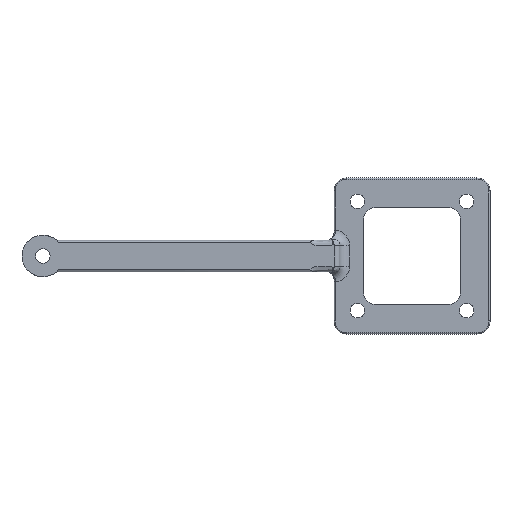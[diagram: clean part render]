
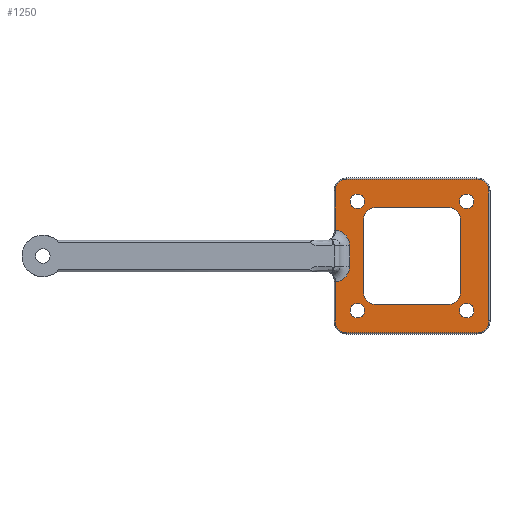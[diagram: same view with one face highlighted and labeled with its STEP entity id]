
A CAD part, top view. The second image highlights one B-rep face of the part: STEP entity #1250.
In plain terms, the highlighted planar face has unit normal (0, 0, 1).
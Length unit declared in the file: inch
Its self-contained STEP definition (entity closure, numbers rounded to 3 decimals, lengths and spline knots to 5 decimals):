
#15=FACE_BOUND($,#315,.T.);
#16=FACE_BOUND($,#316,.T.);
#17=FACE_BOUND($,#317,.T.);
#18=FACE_BOUND($,#318,.T.);
#19=FACE_BOUND($,#319,.T.);
#34=PLANE($,#1350);
#59=LINE($,#1965,#122);
#61=LINE($,#1977,#124);
#63=LINE($,#1989,#126);
#65=LINE($,#2001,#128);
#67=LINE($,#2013,#130);
#69=LINE($,#2260,#132);
#70=LINE($,#2263,#133);
#71=LINE($,#2267,#134);
#72=LINE($,#2271,#135);
#73=LINE($,#2275,#136);
#122=VECTOR($,#1467,0.37533);
#124=VECTOR($,#1481,1.25);
#126=VECTOR($,#1495,1.25);
#128=VECTOR($,#1509,1.25);
#130=VECTOR($,#1523,0.37533);
#132=VECTOR($,#1547,0.2);
#133=VECTOR($,#1548,0.68686);
#134=VECTOR($,#1551,0.68686);
#135=VECTOR($,#1554,0.68686);
#136=VECTOR($,#1557,0.68686);
#238=FACE_OUTER_BOUND($,#314,.T.);
#314=EDGE_LOOP($,(#916,#917,#918,#919,#920,#921,#922,#923,#924,#925,#926,
#927));
#315=EDGE_LOOP($,(#928,#929,#930,#931,#932,#933,#934,#935));
#316=EDGE_LOOP($,(#936));
#317=EDGE_LOOP($,(#937));
#318=EDGE_LOOP($,(#938));
#319=EDGE_LOOP($,(#939));
#439=CIRCLE($,#1319,0.115);
#443=CIRCLE($,#1325,0.115);
#447=CIRCLE($,#1331,0.115);
#451=CIRCLE($,#1337,0.115);
#459=CIRCLE($,#1347,0.15);
#462=CIRCLE($,#1351,0.15);
#463=CIRCLE($,#1352,0.125);
#464=CIRCLE($,#1353,0.125);
#465=CIRCLE($,#1354,0.125);
#466=CIRCLE($,#1355,0.125);
#467=CIRCLE($,#1356,0.07);
#468=CIRCLE($,#1357,0.07);
#469=CIRCLE($,#1358,0.07);
#470=CIRCLE($,#1359,0.07);
#525=VERTEX_POINT($,#1948);
#529=VERTEX_POINT($,#1963);
#531=VERTEX_POINT($,#1969);
#533=VERTEX_POINT($,#1975);
#535=VERTEX_POINT($,#1981);
#537=VERTEX_POINT($,#1987);
#539=VERTEX_POINT($,#1993);
#541=VERTEX_POINT($,#1999);
#543=VERTEX_POINT($,#2005);
#545=VERTEX_POINT($,#2011);
#557=VERTEX_POINT($,#2242);
#561=VERTEX_POINT($,#2258);
#562=VERTEX_POINT($,#2261);
#563=VERTEX_POINT($,#2262);
#564=VERTEX_POINT($,#2264);
#565=VERTEX_POINT($,#2266);
#566=VERTEX_POINT($,#2268);
#567=VERTEX_POINT($,#2270);
#568=VERTEX_POINT($,#2272);
#569=VERTEX_POINT($,#2274);
#570=VERTEX_POINT($,#2277);
#571=VERTEX_POINT($,#2279);
#572=VERTEX_POINT($,#2281);
#573=VERTEX_POINT($,#2283);
#652=EDGE_CURVE($,#529,#525,#59,.T.);
#655=EDGE_CURVE($,#531,#529,#439,.T.);
#658=EDGE_CURVE($,#533,#531,#61,.T.);
#661=EDGE_CURVE($,#535,#533,#443,.T.);
#664=EDGE_CURVE($,#537,#535,#63,.T.);
#667=EDGE_CURVE($,#539,#537,#447,.T.);
#670=EDGE_CURVE($,#541,#539,#65,.T.);
#673=EDGE_CURVE($,#543,#541,#451,.T.);
#676=EDGE_CURVE($,#545,#543,#67,.T.);
#697=EDGE_CURVE($,#525,#557,#459,.T.);
#702=EDGE_CURVE($,#561,#545,#462,.T.);
#703=EDGE_CURVE($,#557,#561,#69,.T.);
#704=EDGE_CURVE($,#562,#563,#70,.T.);
#705=EDGE_CURVE($,#564,#563,#463,.T.);
#706=EDGE_CURVE($,#564,#565,#71,.T.);
#707=EDGE_CURVE($,#566,#565,#464,.T.);
#708=EDGE_CURVE($,#566,#567,#72,.T.);
#709=EDGE_CURVE($,#568,#567,#465,.T.);
#710=EDGE_CURVE($,#568,#569,#73,.T.);
#711=EDGE_CURVE($,#562,#569,#466,.T.);
#712=EDGE_CURVE($,#570,#570,#467,.T.);
#713=EDGE_CURVE($,#571,#571,#468,.T.);
#714=EDGE_CURVE($,#572,#572,#469,.T.);
#715=EDGE_CURVE($,#573,#573,#470,.T.);
#916=ORIENTED_EDGE($,*,*,#652,.F.);
#917=ORIENTED_EDGE($,*,*,#655,.F.);
#918=ORIENTED_EDGE($,*,*,#658,.F.);
#919=ORIENTED_EDGE($,*,*,#661,.F.);
#920=ORIENTED_EDGE($,*,*,#664,.F.);
#921=ORIENTED_EDGE($,*,*,#667,.F.);
#922=ORIENTED_EDGE($,*,*,#670,.F.);
#923=ORIENTED_EDGE($,*,*,#673,.F.);
#924=ORIENTED_EDGE($,*,*,#676,.F.);
#925=ORIENTED_EDGE($,*,*,#702,.F.);
#926=ORIENTED_EDGE($,*,*,#703,.F.);
#927=ORIENTED_EDGE($,*,*,#697,.F.);
#928=ORIENTED_EDGE($,*,*,#704,.T.);
#929=ORIENTED_EDGE($,*,*,#705,.F.);
#930=ORIENTED_EDGE($,*,*,#706,.T.);
#931=ORIENTED_EDGE($,*,*,#707,.F.);
#932=ORIENTED_EDGE($,*,*,#708,.T.);
#933=ORIENTED_EDGE($,*,*,#709,.F.);
#934=ORIENTED_EDGE($,*,*,#710,.T.);
#935=ORIENTED_EDGE($,*,*,#711,.F.);
#936=ORIENTED_EDGE($,*,*,#712,.T.);
#937=ORIENTED_EDGE($,*,*,#713,.T.);
#938=ORIENTED_EDGE($,*,*,#714,.T.);
#939=ORIENTED_EDGE($,*,*,#715,.T.);
#1250=ADVANCED_FACE($,(#238,#15,#16,#17,#18,#19),#34,.T.);
#1319=AXIS2_PLACEMENT_3D($,#1971,#1473,#1474);
#1325=AXIS2_PLACEMENT_3D($,#1983,#1487,#1488);
#1331=AXIS2_PLACEMENT_3D($,#1995,#1501,#1502);
#1337=AXIS2_PLACEMENT_3D($,#2007,#1515,#1516);
#1347=AXIS2_PLACEMENT_3D($,#2243,#1537,#1538);
#1350=AXIS2_PLACEMENT_3D($,#2257,#1543,#1544);
#1351=AXIS2_PLACEMENT_3D($,#2259,#1545,#1546);
#1352=AXIS2_PLACEMENT_3D($,#2265,#1549,#1550);
#1353=AXIS2_PLACEMENT_3D($,#2269,#1552,#1553);
#1354=AXIS2_PLACEMENT_3D($,#2273,#1555,#1556);
#1355=AXIS2_PLACEMENT_3D($,#2276,#1558,#1559);
#1356=AXIS2_PLACEMENT_3D($,#2278,#1560,#1561);
#1357=AXIS2_PLACEMENT_3D($,#2280,#1562,#1563);
#1358=AXIS2_PLACEMENT_3D($,#2282,#1564,#1565);
#1359=AXIS2_PLACEMENT_3D($,#2284,#1566,#1567);
#1467=DIRECTION($,(0.,1.,0.));
#1473=DIRECTION('center_axis',(0.,0.,-1.));
#1474=DIRECTION('ref_axis',(-0.707,-0.707,0.));
#1481=DIRECTION($,(-1.,0.,0.));
#1487=DIRECTION('center_axis',(0.,0.,-1.));
#1488=DIRECTION('ref_axis',(0.707,-0.707,0.));
#1495=DIRECTION($,(0.,-1.,0.));
#1501=DIRECTION('center_axis',(0.,0.,-1.));
#1502=DIRECTION('ref_axis',(0.707,0.707,0.));
#1509=DIRECTION($,(1.,0.,0.));
#1515=DIRECTION('center_axis',(0.,0.,-1.));
#1516=DIRECTION('ref_axis',(-0.707,0.707,0.));
#1523=DIRECTION($,(0.,1.,0.));
#1537=DIRECTION('center_axis',(0.,0.,1.));
#1538=DIRECTION('ref_axis',(0.707,-0.707,0.));
#1543=DIRECTION('center_axis',(0.,0.,1.));
#1544=DIRECTION('ref_axis',(1.,0.,0.));
#1545=DIRECTION('center_axis',(0.,0.,1.));
#1546=DIRECTION('ref_axis',(0.707,0.707,0.));
#1547=DIRECTION($,(0.,1.,0.));
#1548=DIRECTION($,(0.,1.,0.));
#1549=DIRECTION('center_axis',(0.,0.,1.));
#1550=DIRECTION('ref_axis',(-0.707,0.707,0.));
#1551=DIRECTION($,(1.,0.,0.));
#1552=DIRECTION('center_axis',(0.,0.,1.));
#1553=DIRECTION('ref_axis',(0.707,0.707,0.));
#1554=DIRECTION($,(0.,-1.,0.));
#1555=DIRECTION('center_axis',(0.,0.,1.));
#1556=DIRECTION('ref_axis',(0.707,-0.707,0.));
#1557=DIRECTION($,(-1.,0.,0.));
#1558=DIRECTION('center_axis',(0.,0.,1.));
#1559=DIRECTION('ref_axis',(-0.707,-0.707,0.));
#1560=DIRECTION('center_axis',(0.,0.,-1.));
#1561=DIRECTION('ref_axis',(-1.,0.,0.));
#1562=DIRECTION('center_axis',(0.,0.,-1.));
#1563=DIRECTION('ref_axis',(-1.,0.,0.));
#1564=DIRECTION('center_axis',(0.,0.,-1.));
#1565=DIRECTION('ref_axis',(-1.,0.,0.));
#1566=DIRECTION('center_axis',(0.,0.,-1.));
#1567=DIRECTION('ref_axis',(-1.,0.,0.));
#1948=CARTESIAN_POINT('',(-0.74,-0.24967,0.15));
#1963=CARTESIAN_POINT('',(-0.74,-0.625,0.15));
#1965=CARTESIAN_POINT($,(-0.74,0.375,0.15));
#1969=CARTESIAN_POINT('',(-0.625,-0.74,0.15));
#1971=CARTESIAN_POINT('Origin',(-0.625,-0.625,0.15));
#1975=CARTESIAN_POINT('',(0.625,-0.74,0.15));
#1977=CARTESIAN_POINT($,(-0.375,-0.74,0.15));
#1981=CARTESIAN_POINT('',(0.74,-0.625,0.15));
#1983=CARTESIAN_POINT('Origin',(0.625,-0.625,0.15));
#1987=CARTESIAN_POINT('',(0.74,0.625,0.15));
#1989=CARTESIAN_POINT($,(0.74,-0.375,0.15));
#1993=CARTESIAN_POINT('',(0.625,0.74,0.15));
#1995=CARTESIAN_POINT('Origin',(0.625,0.625,0.15));
#1999=CARTESIAN_POINT('',(-0.625,0.74,0.15));
#2001=CARTESIAN_POINT($,(0.375,0.74,0.15));
#2005=CARTESIAN_POINT('',(-0.74,0.625,0.15));
#2007=CARTESIAN_POINT('Origin',(-0.625,0.625,0.15));
#2011=CARTESIAN_POINT('',(-0.74,0.24967,0.15));
#2013=CARTESIAN_POINT($,(-0.74,0.375,0.15));
#2242=CARTESIAN_POINT('',(-0.6,-0.1,0.15));
#2243=CARTESIAN_POINT('Origin',(-0.75,-0.1,0.15));
#2257=CARTESIAN_POINT('Origin',(0.,0.,0.15));
#2258=CARTESIAN_POINT('',(-0.6,0.1,0.15));
#2259=CARTESIAN_POINT('Origin',(-0.75,0.1,0.15));
#2260=CARTESIAN_POINT($,(-0.6,-0.075,0.15));
#2261=CARTESIAN_POINT('',(-0.46843,-0.34343,0.15));
#2262=CARTESIAN_POINT('',(-0.46843,0.34343,0.15));
#2263=CARTESIAN_POINT($,(-0.46843,-0.23422,0.15));
#2264=CARTESIAN_POINT('',(-0.34343,0.46843,0.15));
#2265=CARTESIAN_POINT('Origin',(-0.34343,0.34343,0.15));
#2266=CARTESIAN_POINT('',(0.34343,0.46843,0.15));
#2267=CARTESIAN_POINT($,(-0.23422,0.46843,0.15));
#2268=CARTESIAN_POINT('',(0.46843,0.34343,0.15));
#2269=CARTESIAN_POINT('Origin',(0.34343,0.34343,0.15));
#2270=CARTESIAN_POINT('',(0.46843,-0.34343,0.15));
#2271=CARTESIAN_POINT($,(0.46843,0.23422,0.15));
#2272=CARTESIAN_POINT('',(0.34343,-0.46843,0.15));
#2273=CARTESIAN_POINT('Origin',(0.34343,-0.34343,0.15));
#2274=CARTESIAN_POINT('',(-0.34343,-0.46843,0.15));
#2275=CARTESIAN_POINT($,(0.23422,-0.46843,0.15));
#2276=CARTESIAN_POINT('Origin',(-0.34343,-0.34343,0.15));
#2277=CARTESIAN_POINT('',(0.595,-0.525,0.15));
#2278=CARTESIAN_POINT('Origin',(0.525,-0.525,0.15));
#2279=CARTESIAN_POINT('',(-0.455,0.525,0.15));
#2280=CARTESIAN_POINT('Origin',(-0.525,0.525,0.15));
#2281=CARTESIAN_POINT('',(0.595,0.525,0.15));
#2282=CARTESIAN_POINT('Origin',(0.525,0.525,0.15));
#2283=CARTESIAN_POINT('',(-0.455,-0.525,0.15));
#2284=CARTESIAN_POINT('Origin',(-0.525,-0.525,0.15));
